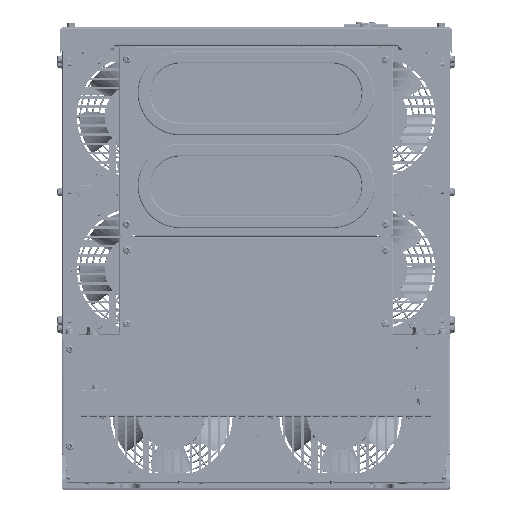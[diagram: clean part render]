
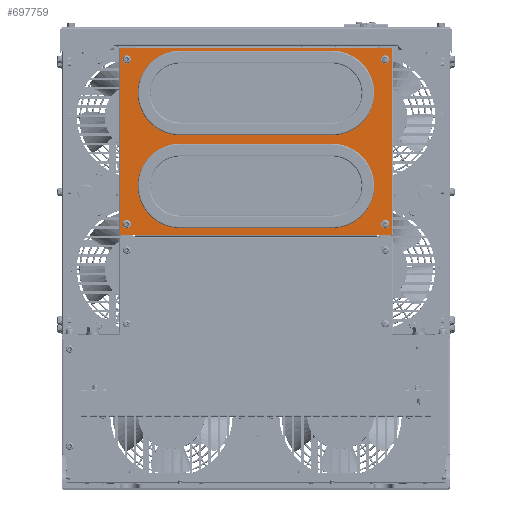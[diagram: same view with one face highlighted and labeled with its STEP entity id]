
A CAD part, top view. The second image highlights one B-rep face of the part: STEP entity #697759.
In plain terms, the highlighted planar face has unit normal (0, 0, 1).
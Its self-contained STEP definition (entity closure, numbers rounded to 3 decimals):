
#80520=LINE('',#1177462,#156347);
#80523=LINE('',#1177470,#156350);
#80525=LINE('',#1177477,#156352);
#80526=LINE('',#1177479,#156353);
#80527=LINE('',#1177481,#156354);
#80528=LINE('',#1177483,#156355);
#80529=LINE('',#1177485,#156356);
#80530=LINE('',#1177487,#156357);
#80531=LINE('',#1177489,#156358);
#80532=LINE('',#1177490,#156359);
#80533=LINE('',#1177493,#156360);
#80534=LINE('',#1177497,#156361);
#156347=VECTOR('',#902086,180.);
#156350=VECTOR('',#902095,180.);
#156352=VECTOR('',#902103,18.);
#156353=VECTOR('',#902104,221.95);
#156354=VECTOR('',#902105,18.);
#156355=VECTOR('',#902106,285.2);
#156356=VECTOR('',#902107,18.);
#156357=VECTOR('',#902108,221.95);
#156358=VECTOR('',#902109,18.);
#156359=VECTOR('',#902110,285.2);
#156360=VECTOR('',#902111,180.);
#156361=VECTOR('',#902114,180.);
#184121=FACE_BOUND('',#257707,.T.);
#184122=FACE_BOUND('',#257708,.T.);
#184123=FACE_BOUND('',#257709,.T.);
#184124=FACE_BOUND('',#257710,.T.);
#184125=FACE_BOUND('',#257711,.T.);
#184126=FACE_BOUND('',#257712,.T.);
#214614=FACE_OUTER_BOUND('',#257706,.T.);
#257706=EDGE_LOOP('',(#594807,#594808,#594809,#594810,#594811,#594812,#594813,
#594814));
#257707=EDGE_LOOP('',(#594815,#594816,#594817,#594818));
#257708=EDGE_LOOP('',(#594819,#594820,#594821,#594822));
#257709=EDGE_LOOP('',(#594823));
#257710=EDGE_LOOP('',(#594824));
#257711=EDGE_LOOP('',(#594825));
#257712=EDGE_LOOP('',(#594826));
#279634=CIRCLE('',#748974,40.);
#279635=CIRCLE('',#748977,40.);
#279636=CIRCLE('',#748979,40.);
#279637=CIRCLE('',#748980,40.);
#279638=CIRCLE('',#748981,2.75);
#279639=CIRCLE('',#748982,2.75);
#279640=CIRCLE('',#748983,2.75);
#279641=CIRCLE('',#748984,2.75);
#332324=VERTEX_POINT('',#1177459);
#332325=VERTEX_POINT('',#1177461);
#332326=VERTEX_POINT('',#1177465);
#332327=VERTEX_POINT('',#1177469);
#332328=VERTEX_POINT('',#1177475);
#332329=VERTEX_POINT('',#1177476);
#332330=VERTEX_POINT('',#1177478);
#332331=VERTEX_POINT('',#1177480);
#332332=VERTEX_POINT('',#1177482);
#332333=VERTEX_POINT('',#1177484);
#332334=VERTEX_POINT('',#1177486);
#332335=VERTEX_POINT('',#1177488);
#332336=VERTEX_POINT('',#1177491);
#332337=VERTEX_POINT('',#1177492);
#332338=VERTEX_POINT('',#1177494);
#332339=VERTEX_POINT('',#1177496);
#332340=VERTEX_POINT('',#1177499);
#332341=VERTEX_POINT('',#1177501);
#332342=VERTEX_POINT('',#1177503);
#332343=VERTEX_POINT('',#1177505);
#421364=EDGE_CURVE('',#332325,#332324,#80520,.T.);
#421366=EDGE_CURVE('',#332325,#332326,#279634,.T.);
#421368=EDGE_CURVE('',#332327,#332326,#80523,.T.);
#421370=EDGE_CURVE('',#332327,#332324,#279635,.T.);
#421371=EDGE_CURVE('',#332328,#332329,#80525,.T.);
#421372=EDGE_CURVE('',#332330,#332328,#80526,.T.);
#421373=EDGE_CURVE('',#332331,#332330,#80527,.T.);
#421374=EDGE_CURVE('',#332332,#332331,#80528,.T.);
#421375=EDGE_CURVE('',#332332,#332333,#80529,.T.);
#421376=EDGE_CURVE('',#332334,#332333,#80530,.T.);
#421377=EDGE_CURVE('',#332334,#332335,#80531,.T.);
#421378=EDGE_CURVE('',#332329,#332335,#80532,.T.);
#421379=EDGE_CURVE('',#332336,#332337,#80533,.T.);
#421380=EDGE_CURVE('',#332338,#332337,#279636,.T.);
#421381=EDGE_CURVE('',#332338,#332339,#80534,.T.);
#421382=EDGE_CURVE('',#332336,#332339,#279637,.T.);
#421383=EDGE_CURVE('',#332340,#332340,#279638,.T.);
#421384=EDGE_CURVE('',#332341,#332341,#279639,.T.);
#421385=EDGE_CURVE('',#332342,#332342,#279640,.T.);
#421386=EDGE_CURVE('',#332343,#332343,#279641,.T.);
#594807=ORIENTED_EDGE('',*,*,#421371,.F.);
#594808=ORIENTED_EDGE('',*,*,#421372,.F.);
#594809=ORIENTED_EDGE('',*,*,#421373,.F.);
#594810=ORIENTED_EDGE('',*,*,#421374,.F.);
#594811=ORIENTED_EDGE('',*,*,#421375,.T.);
#594812=ORIENTED_EDGE('',*,*,#421376,.F.);
#594813=ORIENTED_EDGE('',*,*,#421377,.T.);
#594814=ORIENTED_EDGE('',*,*,#421378,.F.);
#594815=ORIENTED_EDGE('',*,*,#421379,.T.);
#594816=ORIENTED_EDGE('',*,*,#421380,.F.);
#594817=ORIENTED_EDGE('',*,*,#421381,.T.);
#594818=ORIENTED_EDGE('',*,*,#421382,.F.);
#594819=ORIENTED_EDGE('',*,*,#421364,.T.);
#594820=ORIENTED_EDGE('',*,*,#421370,.F.);
#594821=ORIENTED_EDGE('',*,*,#421368,.T.);
#594822=ORIENTED_EDGE('',*,*,#421366,.F.);
#594823=ORIENTED_EDGE('',*,*,#421383,.F.);
#594824=ORIENTED_EDGE('',*,*,#421384,.F.);
#594825=ORIENTED_EDGE('',*,*,#421385,.F.);
#594826=ORIENTED_EDGE('',*,*,#421386,.F.);
#661478=PLANE('',#748978);
#697759=ADVANCED_FACE('',(#214614,#184121,#184122,#184123,#184124,#184125,
#184126),#661478,.T.);
#748974=AXIS2_PLACEMENT_3D('',#1177466,#902090,#902091);
#748977=AXIS2_PLACEMENT_3D('',#1177473,#902099,#902100);
#748978=AXIS2_PLACEMENT_3D('',#1177474,#902101,#902102);
#748979=AXIS2_PLACEMENT_3D('',#1177495,#902112,#902113);
#748980=AXIS2_PLACEMENT_3D('',#1177498,#902115,#902116);
#748981=AXIS2_PLACEMENT_3D('',#1177500,#902117,#902118);
#748982=AXIS2_PLACEMENT_3D('',#1177502,#902119,#902120);
#748983=AXIS2_PLACEMENT_3D('',#1177504,#902121,#902122);
#748984=AXIS2_PLACEMENT_3D('',#1177506,#902123,#902124);
#902086=DIRECTION('',(1.,0.,0.));
#902090=DIRECTION('center_axis',(0.,0.,1.));
#902091=DIRECTION('ref_axis',(0.,1.,0.));
#902095=DIRECTION('',(-1.,0.,0.));
#902099=DIRECTION('center_axis',(0.,0.,1.));
#902100=DIRECTION('ref_axis',(0.,-1.,0.));
#902101=DIRECTION('center_axis',(0.,0.,1.));
#902102=DIRECTION('ref_axis',(1.,0.,0.));
#902103=DIRECTION('',(1.,0.,0.));
#902104=DIRECTION('',(0.,1.,0.));
#902105=DIRECTION('',(-1.,0.,0.));
#902106=DIRECTION('',(-1.,0.,0.));
#902107=DIRECTION('',(1.,0.,0.));
#902108=DIRECTION('',(0.,-1.,0.));
#902109=DIRECTION('',(-1.,0.,0.));
#902110=DIRECTION('',(1.,0.,0.));
#902111=DIRECTION('',(1.,0.,0.));
#902112=DIRECTION('center_axis',(0.,0.,1.));
#902113=DIRECTION('ref_axis',(0.,-1.,0.));
#902114=DIRECTION('',(-1.,0.,0.));
#902115=DIRECTION('center_axis',(0.,0.,1.));
#902116=DIRECTION('ref_axis',(0.,1.,0.));
#902117=DIRECTION('center_axis',(0.,0.,1.));
#902118=DIRECTION('ref_axis',(-1.,0.,0.));
#902119=DIRECTION('center_axis',(0.,0.,1.));
#902120=DIRECTION('ref_axis',(-1.,0.,0.));
#902121=DIRECTION('center_axis',(0.,0.,1.));
#902122=DIRECTION('ref_axis',(-1.,0.,0.));
#902123=DIRECTION('center_axis',(0.,0.,1.));
#902124=DIRECTION('ref_axis',(-1.,0.,0.));
#1177459=CARTESIAN_POINT('',(90.,397.5,661.2));
#1177461=CARTESIAN_POINT('',(-90.,397.5,661.2));
#1177462=CARTESIAN_POINT('',(-90.,397.5,661.2));
#1177465=CARTESIAN_POINT('',(-90.,317.5,661.2));
#1177466=CARTESIAN_POINT('Origin',(-90.,357.5,661.2));
#1177469=CARTESIAN_POINT('',(90.,317.5,661.2));
#1177470=CARTESIAN_POINT('',(90.,317.5,661.2));
#1177473=CARTESIAN_POINT('Origin',(90.,357.5,661.2));
#1177474=CARTESIAN_POINT('Origin',(0.,0.,661.2));
#1177475=CARTESIAN_POINT('',(-160.6,520.85,661.2));
#1177476=CARTESIAN_POINT('',(-142.6,520.85,661.2));
#1177477=CARTESIAN_POINT('',(-160.6,520.85,661.2));
#1177478=CARTESIAN_POINT('',(-160.6,298.9,661.2));
#1177479=CARTESIAN_POINT('',(-160.6,298.9,661.2));
#1177480=CARTESIAN_POINT('',(-142.6,298.9,661.2));
#1177481=CARTESIAN_POINT('',(-142.6,298.9,661.2));
#1177482=CARTESIAN_POINT('',(142.6,298.9,661.2));
#1177483=CARTESIAN_POINT('',(142.6,298.9,661.2));
#1177484=CARTESIAN_POINT('',(160.6,298.9,661.2));
#1177485=CARTESIAN_POINT('',(142.6,298.9,661.2));
#1177486=CARTESIAN_POINT('',(160.6,520.85,661.2));
#1177487=CARTESIAN_POINT('',(160.6,520.85,661.2));
#1177488=CARTESIAN_POINT('',(142.6,520.85,661.2));
#1177489=CARTESIAN_POINT('',(160.6,520.85,661.2));
#1177490=CARTESIAN_POINT('',(-142.6,520.85,661.2));
#1177491=CARTESIAN_POINT('',(-90.,507.5,661.2));
#1177492=CARTESIAN_POINT('',(90.,507.5,661.2));
#1177493=CARTESIAN_POINT('',(-90.,507.5,661.2));
#1177494=CARTESIAN_POINT('',(90.,427.5,661.2));
#1177495=CARTESIAN_POINT('Origin',(90.,467.5,661.2));
#1177496=CARTESIAN_POINT('',(-90.,427.5,661.2));
#1177497=CARTESIAN_POINT('',(90.,427.5,661.2));
#1177498=CARTESIAN_POINT('Origin',(-90.,467.5,661.2));
#1177499=CARTESIAN_POINT('',(155.75,507.25,661.2));
#1177500=CARTESIAN_POINT('Origin',(153.,507.25,661.2));
#1177501=CARTESIAN_POINT('',(155.75,312.5,661.2));
#1177502=CARTESIAN_POINT('Origin',(153.,312.5,661.2));
#1177503=CARTESIAN_POINT('',(-150.25,312.5,661.2));
#1177504=CARTESIAN_POINT('Origin',(-153.,312.5,661.2));
#1177505=CARTESIAN_POINT('',(-150.25,507.25,661.2));
#1177506=CARTESIAN_POINT('Origin',(-153.,507.25,661.2));
